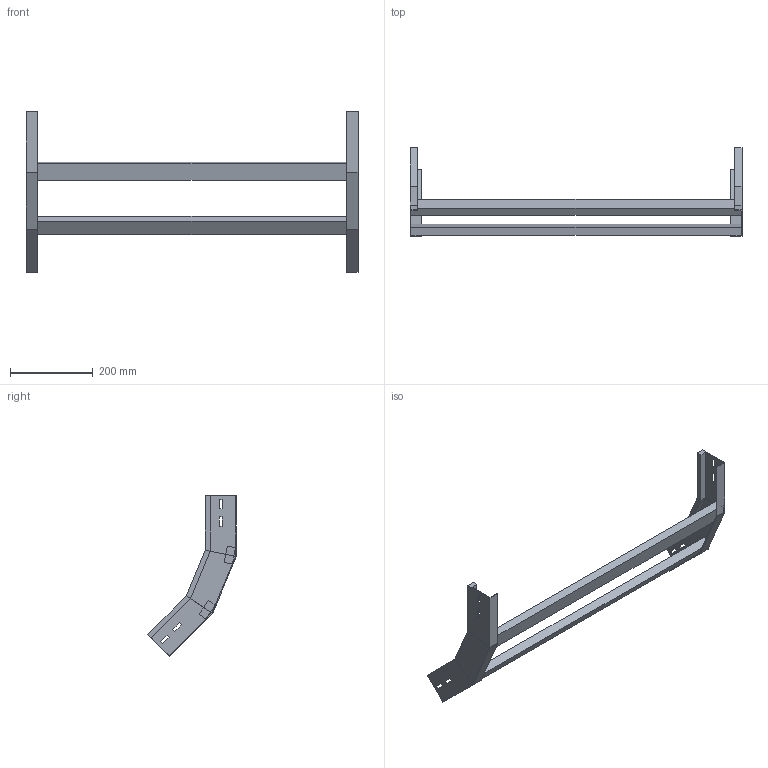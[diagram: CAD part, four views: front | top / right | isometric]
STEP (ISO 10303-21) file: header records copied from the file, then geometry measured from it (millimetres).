
FILE_DESCRIPTION (( 'STEP AP214' ), '1' );
FILE_NAME ('A2X31B3C800XX.step', '2025-03-20T10:09:15', ( '' ), ( '' ), 'SwSTEP 2.0', 'SolidWorks 2023', '' );
FILE_SCHEMA (( 'AUTOMOTIVE_DESIGN' ));
Length unit declared in the file: millimetre
Products named in the file (3): A2X31B3C800XX; LONGH.SALITA_45°_H75_R300; TRAVERSINO_800
Assembly tree (4 placements, depth 2):
  A2X31B3C800XX
    LONGH.SALITA_45°_H75_R300  x2
    TRAVERSINO_800  x2
Bounding box: 800 x 213.56 x 387.55 mm (x, y, z)
Volume: 1603315.1 mm3; surface area: 391650.7 mm2
Topology: 4 solids, 4 shells, 96 faces, 232 edges, 144 vertices
Faces by surface type: plane 96
Entity records: 1472 total; most frequent: CARTESIAN_POINT 243, ORIENTED_EDGE 232, DIRECTION 226, VECTOR 116, EDGE_CURVE 116, LINE 116, VERTEX_POINT 72, EDGE_LOOP 56
